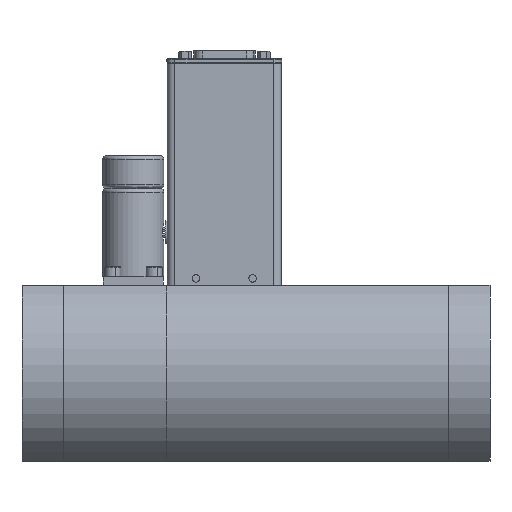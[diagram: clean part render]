
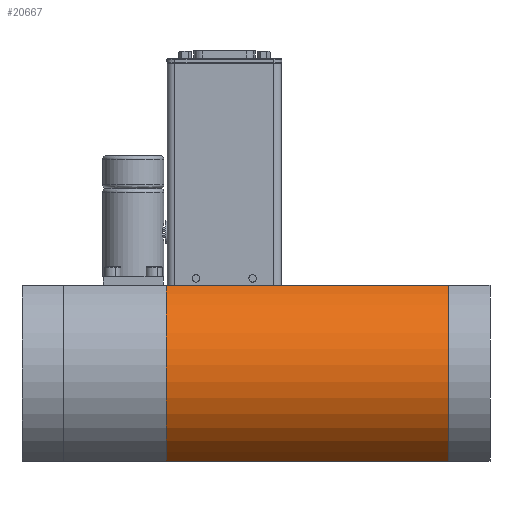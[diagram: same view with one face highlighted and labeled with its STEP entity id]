
A CAD part, left-side view. The second image highlights one B-rep face of the part: STEP entity #20667.
In plain terms, the highlighted cylindrical face has radius 42 mm (diameter 84 mm), a partial arc.
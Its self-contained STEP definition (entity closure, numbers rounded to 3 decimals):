
#146 = CARTESIAN_POINT ( 'NONE',  ( 0., 120., 0. ) ) ;
#935 = CARTESIAN_POINT ( 'NONE',  ( -19.306, 0., 37.3 ) ) ;
#1050 = CARTESIAN_POINT ( 'NONE',  ( -19.306, 0., -37.3 ) ) ;
#1359 = EDGE_CURVE ( 'NONE', #2650, #17390, #16638, .T. ) ;
#1883 = DIRECTION ( 'NONE',  ( 0., 0., 1. ) ) ;
#2144 = CARTESIAN_POINT ( 'NONE',  ( 0., 0., 0. ) ) ;
#2400 = VERTEX_POINT ( 'NONE', #10516 ) ;
#2650 = VERTEX_POINT ( 'NONE', #935 ) ;
#3029 = CIRCLE ( 'NONE', #20185, 42. ) ;
#3096 = VECTOR ( 'NONE', #7258, 1000. ) ;
#3579 = FACE_OUTER_BOUND ( 'NONE', #15136, .T. ) ;
#4501 = DIRECTION ( 'NONE',  ( 0., -1., 0. ) ) ;
#5066 = ORIENTED_EDGE ( 'NONE', *, *, #12529, .T. ) ;
#5546 = EDGE_CURVE ( 'NONE', #2400, #17390, #15308, .T. ) ;
#6628 = AXIS2_PLACEMENT_3D ( 'NONE', #2144, #7197, #14137 ) ;
#7197 = DIRECTION ( 'NONE',  ( 0., 1., 0. ) ) ;
#7258 = DIRECTION ( 'NONE',  ( 0., 1., 0. ) ) ;
#7579 = ORIENTED_EDGE ( 'NONE', *, *, #1359, .F. ) ;
#7587 = AXIS2_PLACEMENT_3D ( 'NONE', #16110, #16256, #20786 ) ;
#8602 = ORIENTED_EDGE ( 'NONE', *, *, #19190, .T. ) ;
#8832 = VERTEX_POINT ( 'NONE', #15128 ) ;
#10516 = CARTESIAN_POINT ( 'NONE',  ( -19.306, 120., -37.3 ) ) ;
#10769 = VECTOR ( 'NONE', #4501, 1000. ) ;
#12158 = DIRECTION ( 'NONE',  ( 0., -1., 0. ) ) ;
#12225 = LINE ( 'NONE', #12479, #3096 ) ;
#12479 = CARTESIAN_POINT ( 'NONE',  ( -19.306, 0., 37.3 ) ) ;
#12529 = EDGE_CURVE ( 'NONE', #8832, #2400, #3029, .T. ) ;
#13634 = ORIENTED_EDGE ( 'NONE', *, *, #5546, .T. ) ;
#14137 = DIRECTION ( 'NONE',  ( 0., 0., 1. ) ) ;
#15128 = CARTESIAN_POINT ( 'NONE',  ( -19.306, 120., 37.3 ) ) ;
#15136 = EDGE_LOOP ( 'NONE', ( #8602, #5066, #13634, #7579 ) ) ;
#15308 = LINE ( 'NONE', #1050, #10769 ) ;
#16110 = CARTESIAN_POINT ( 'NONE',  ( 0., 0., 0. ) ) ;
#16256 = DIRECTION ( 'NONE',  ( 0., -1., 0. ) ) ;
#16638 = CIRCLE ( 'NONE', #7587, 42. ) ;
#16664 = CYLINDRICAL_SURFACE ( 'NONE', #6628, 42. ) ;
#17390 = VERTEX_POINT ( 'NONE', #18912 ) ;
#18912 = CARTESIAN_POINT ( 'NONE',  ( -19.306, 0., -37.3 ) ) ;
#19190 = EDGE_CURVE ( 'NONE', #2650, #8832, #12225, .T. ) ;
#20185 = AXIS2_PLACEMENT_3D ( 'NONE', #146, #12158, #1883 ) ;
#20667 = ADVANCED_FACE ( 'NONE', ( #3579 ), #16664, .T. ) ;
#20786 = DIRECTION ( 'NONE',  ( 0., 0., 1. ) ) ;
